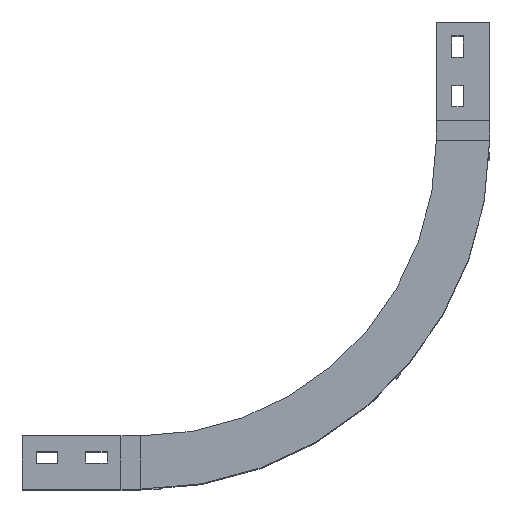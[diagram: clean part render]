
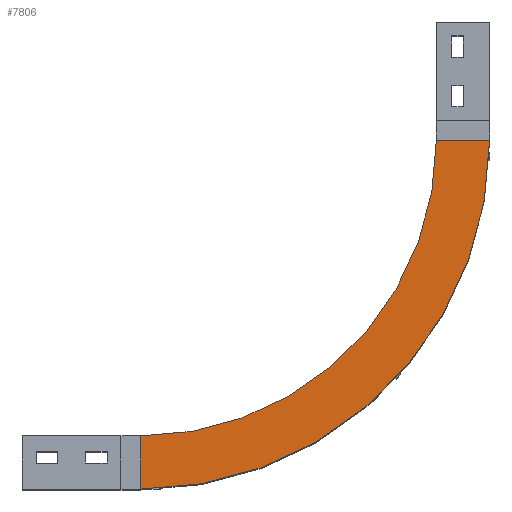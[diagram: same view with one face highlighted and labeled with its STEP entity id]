
A CAD part, top view. The second image highlights one B-rep face of the part: STEP entity #7806.
In plain terms, the highlighted planar face has unit normal (0, 0, 1).
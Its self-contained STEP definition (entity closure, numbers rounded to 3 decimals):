
#409=CIRCLE('',#8223,300.);
#410=CIRCLE('',#8224,354.);
#742=FACE_OUTER_BOUND('',#1146,.T.);
#1146=EDGE_LOOP('',(#5267,#5268,#5269,#5270));
#1703=LINE('',#10856,#2523);
#1707=LINE('',#10867,#2527);
#2523=VECTOR('',#8829,304.8);
#2527=VECTOR('',#8839,304.8);
#3343=VERTEX_POINT('',#10854);
#3344=VERTEX_POINT('',#10855);
#3347=VERTEX_POINT('',#10863);
#3348=VERTEX_POINT('',#10865);
#4111=EDGE_CURVE('',#3343,#3344,#1703,.T.);
#4115=EDGE_CURVE('',#3347,#3344,#409,.T.);
#4116=EDGE_CURVE('',#3343,#3348,#410,.T.);
#4117=EDGE_CURVE('',#3347,#3348,#1707,.T.);
#5267=ORIENTED_EDGE('',*,*,#4115,.T.);
#5268=ORIENTED_EDGE('',*,*,#4111,.F.);
#5269=ORIENTED_EDGE('',*,*,#4116,.T.);
#5270=ORIENTED_EDGE('',*,*,#4117,.F.);
#7568=PLANE('',#8222);
#7806=ADVANCED_FACE('',(#742),#7568,.T.);
#8222=AXIS2_PLACEMENT_3D('',#10862,#8833,#8834);
#8223=AXIS2_PLACEMENT_3D('',#10864,#8835,#8836);
#8224=AXIS2_PLACEMENT_3D('',#10866,#8837,#8838);
#8829=DIRECTION('',(0.,1.,0.));
#8833=DIRECTION('center_axis',(0.,0.,1.));
#8834=DIRECTION('ref_axis',(0.,-1.,0.));
#8835=DIRECTION('center_axis',(0.,0.,-1.));
#8836=DIRECTION('ref_axis',(0.,-1.,0.));
#8837=DIRECTION('center_axis',(0.,0.,1.));
#8838=DIRECTION('ref_axis',(0.,-1.,0.));
#8839=DIRECTION('',(1.,0.,0.));
#10854=CARTESIAN_POINT('',(-327.,-27.,255.5));
#10855=CARTESIAN_POINT('',(-327.,27.,255.5));
#10856=CARTESIAN_POINT('',(-327.,-27.,255.5));
#10862=CARTESIAN_POINT('Origin',(-327.,327.,255.5));
#10863=CARTESIAN_POINT('',(-27.,327.,255.5));
#10864=CARTESIAN_POINT('Origin',(-327.,327.,255.5));
#10865=CARTESIAN_POINT('',(27.,327.,255.5));
#10866=CARTESIAN_POINT('Origin',(-327.,327.,255.5));
#10867=CARTESIAN_POINT('',(-27.,327.,255.5));
